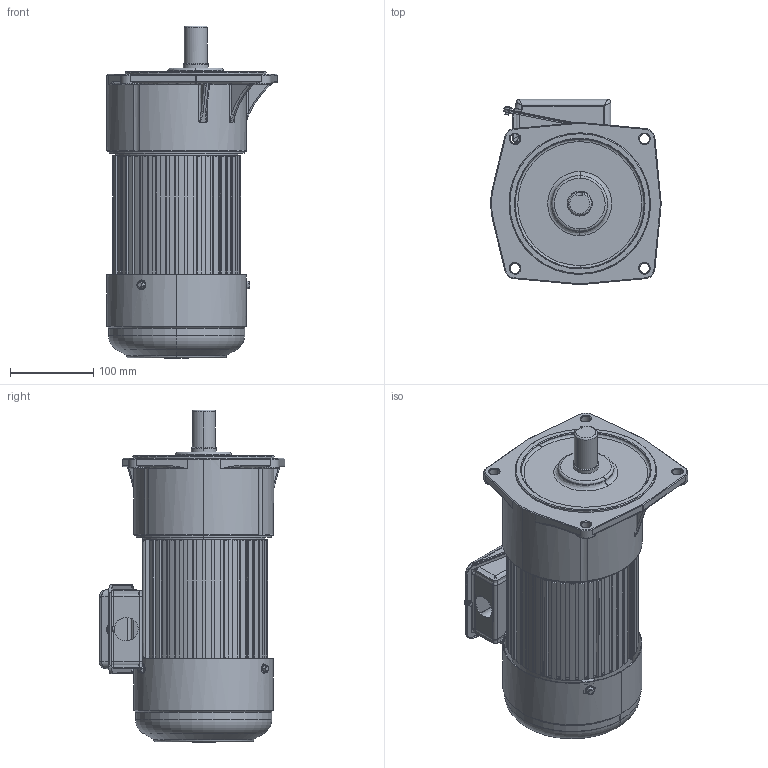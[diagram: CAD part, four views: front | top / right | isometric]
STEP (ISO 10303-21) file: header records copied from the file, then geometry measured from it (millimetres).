
FILE_DESCRIPTION (( 'STEP AP203' ), '1' );
FILE_NAME ('单相750W3#立式.STEP', '2015-10-31T07:01:52', ( '微软中国' ), ( '微软用户' ), 'SwSTEP 2.0', 'SolidWorks 2009', '' );
FILE_SCHEMA (( 'CONFIG_CONTROL_DESIGN' ));
Products named in the file (11): 等眈750W; 等眈諉盄碟裔; Cross recessed pan head screws GB_GB_CROSS_SCREWS_TYPE1 M5X6-6  H type-N; 等眈諉盄碟釱; 等眈750W3#蕾宒; 3#蕾宒熬厒ん; 鞠褒蹟邡_GB_FASTENER_BOLT_HFBB M5X10-N; 棠憤迖殤400W; 等眈 瑞欶400W; 等眈諉盄碟窒璃; 750W儂褲
Assembly tree (12 placements, depth 4):
  等眈750W3#蕾宒
    3#蕾宒熬厒ん
    等眈750W
      等眈諉盄碟窒璃
        Cross recessed pan head screws GB_GB_CROSS_SCREWS_TYPE1 M5X6-6  H type-N
        等眈諉盄碟釱
        等眈諉盄碟裔
      鞠褒蹟邡_GB_FASTENER_BOLT_HFBB M5X10-N  x3
      等眈 瑞欶400W
      750W儂褲
      棠憤迖殤400W
Bounding box: 204.98 x 223.07 x 399 mm (x, y, z)
Volume: 3042934.1 mm3; surface area: 641603.7 mm2
Topology: 10 solids, 10 shells, 1434 faces, 3964 edges, 2568 vertices
Faces by surface type: plane 708, cylinder 439, bspline 169, torus 86, cone 30, sphere 2
Entity records: 54917 total; most frequent: CARTESIAN_POINT 18732, ORIENTED_EDGE 7706, DIRECTION 6741, EDGE_CURVE 3853, VERTEX_POINT 2514, AXIS2_PLACEMENT_3D 2257, VECTOR 2227, LINE 2227
